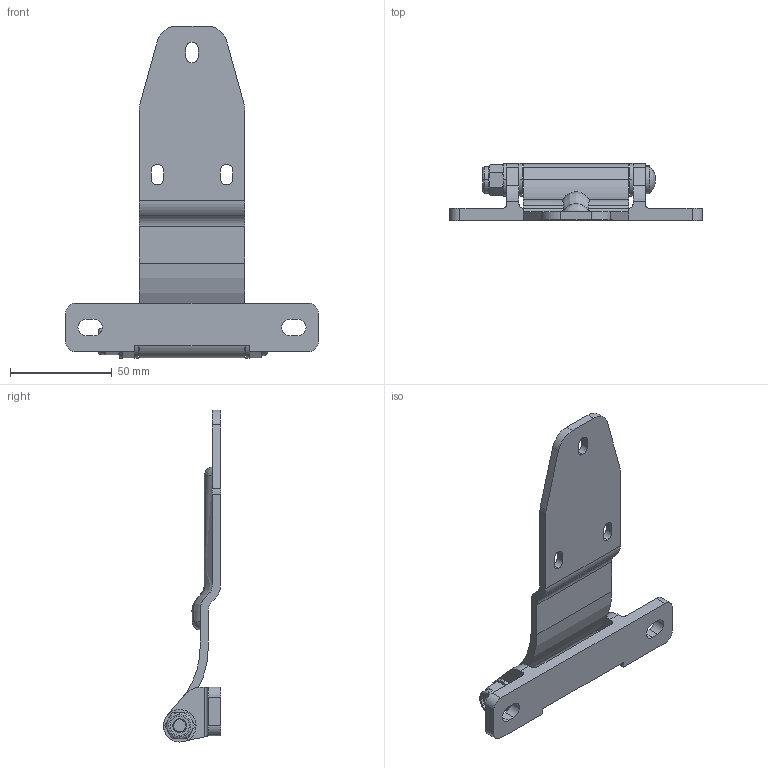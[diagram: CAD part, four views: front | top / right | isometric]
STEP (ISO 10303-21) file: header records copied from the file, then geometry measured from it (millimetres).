
FILE_DESCRIPTION (( 'STEP AP203' ), '1' );
FILE_NAME ('B67 KH-1271.STEP', '2010-10-11T06:03:45', ( ' ' ), ( '' ), 'SwSTEP 2.0', 'SolidWorks 2010', '' );
FILE_SCHEMA (( 'CONFIG_CONTROL_DESIGN' ));
Length unit declared in the file: millimetre
Products named in the file (6): ST か濰離 葬橫 HINGE 模-01-1; ST か濰離 葬橫 HINGE 模-03-1; Plain Washer Normal Grade A_ISO_Washer ISO 7089 - 8-1; Torque nut 02_ISO_ISO 7041-M8-N-1; ST か濰離 葬橫 HINGE 模-02-1; B67 KH-1271
Assembly tree (7 placements, depth 2):
  B67 KH-1271
    ST か濰離 葬橫 HINGE 模-03-1
    Torque nut 02_ISO_ISO 7041-M8-N-1
    Plain Washer Normal Grade A_ISO_Washer ISO 7089 - 8-1  x3
    ST か濰離 葬橫 HINGE 模-02-1
    ST か濰離 葬橫 HINGE 模-01-1
Bounding box: 124 x 28 x 163 mm (x, y, z)
Volume: 66589 mm3; surface area: 34457 mm2
Topology: 7 solids, 7 shells, 150 faces, 383 edges, 247 vertices
Faces by surface type: cylinder 69, plane 58, cone 16, bspline 5, torus 2
Entity records: 6574 total; most frequent: CARTESIAN_POINT 2460, DIRECTION 731, ORIENTED_EDGE 714, EDGE_CURVE 357, AXIS2_PLACEMENT_3D 273, VERTEX_POINT 231, LINE 185, VECTOR 185
